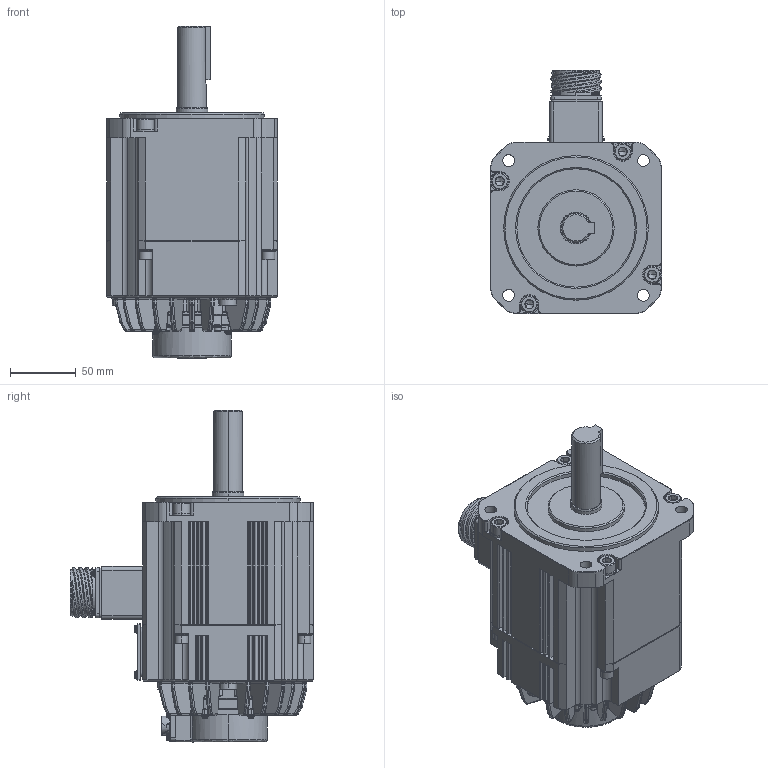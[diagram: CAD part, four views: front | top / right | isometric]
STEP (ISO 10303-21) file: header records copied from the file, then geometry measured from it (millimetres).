
FILE_DESCRIPTION (( 'STEP AP203' ), '1' );
FILE_NAME ('TSM3565N2375E721‘•”z.STEP', '2018-06-29T06:03:01', ( '' ), ( '' ), 'SwSTEP 2.0', 'SolidWorks 2017', '' );
FILE_SCHEMA (( 'CONFIG_CONTROL_DESIGN' ));
Products named in the file (1): TSM3565N2375E721装配
Bounding box: 130.5 x 185.2 x 252.5 mm (x, y, z)
Volume: 2307096.1 mm3; surface area: 173324.5 mm2
Topology: 5 solids, 31 shells, 3409 faces, 8555 edges, 5228 vertices
Faces by surface type: plane 1163, bspline 1100, cylinder 886, cone 260
Entity records: 164630 total; most frequent: CARTESIAN_POINT 92228, ORIENTED_EDGE 16900, DIRECTION 12256, EDGE_CURVE 8450, VERTEX_POINT 5228, AXIS2_PLACEMENT_3D 4184, LINE 3888, VECTOR 3888
